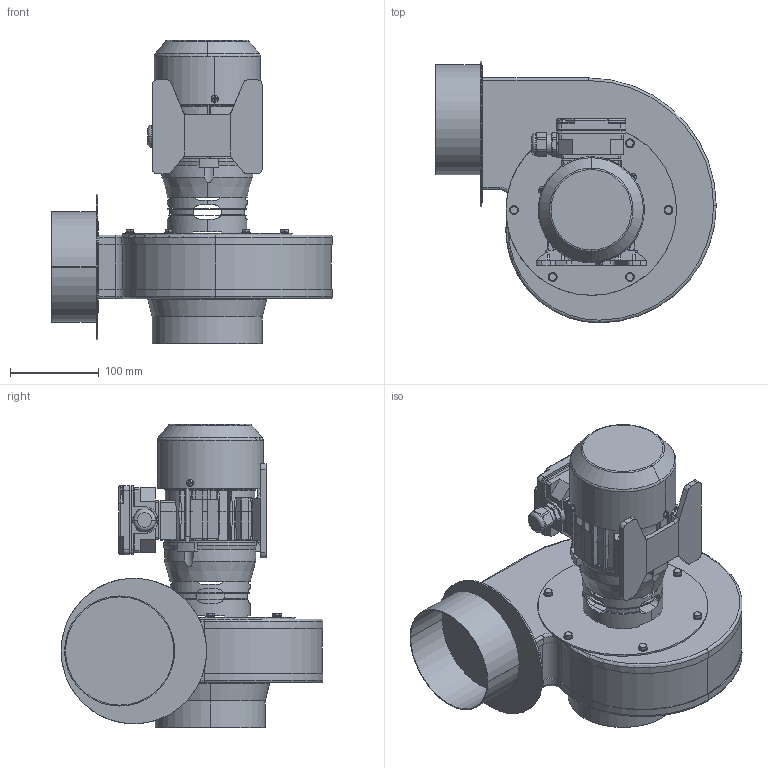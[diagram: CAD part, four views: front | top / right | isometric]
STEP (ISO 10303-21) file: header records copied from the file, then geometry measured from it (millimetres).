
FILE_DESCRIPTION((''),'2;1');
FILE_NAME('CT600HT','2023-01-25T10:12:29',('Tomas Bellgran'),(''),'CREO PARAMETRIC BY PTC INC, 2018260','CREO PARAMETRIC BY PTC INC, 2018260','');
FILE_SCHEMA(('AUTOMOTIVE_DESIGN { 1 0 10303 214 1 1 1 1 }'));
Length unit declared in the file: millimetre
Products named in the file (5): SOLID1-21; SOLID1-22; PART1; SOLID1-64101_SW0001; CT600HT
Assembly tree (4 placements, depth 3):
  CT600HT
    PART1
      SOLID1-21
      SOLID1-22
    SOLID1-64101_SW0001
Bounding box: 316 x 295 x 341.54 mm (x, y, z)
Volume: 19878.9 mm3; surface area: 495534 mm2
Topology: 2 solids, 50 shells, 611 faces, 2494 edges, 1792 vertices
Faces by surface type: plane 319, cylinder 189, cone 43, bspline 40, torus 20
Entity records: 34447 total; most frequent: CARTESIAN_POINT 9660, DIRECTION 3942, ORIENTED_EDGE 3782, EDGE_CURVE 2488, VERTEX_POINT 1792, AXIS2_PLACEMENT_3D 1337, VECTOR 1254, LINE 1254
